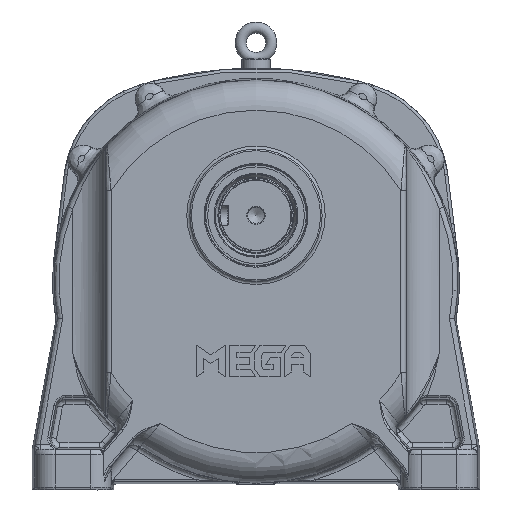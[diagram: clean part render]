
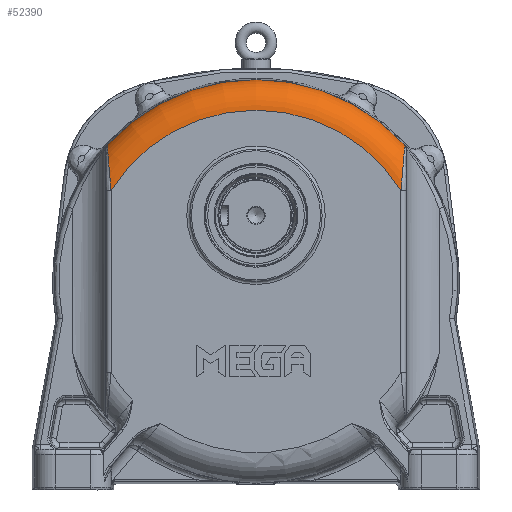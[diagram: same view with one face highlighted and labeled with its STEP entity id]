
A CAD part, front view. The second image highlights one B-rep face of the part: STEP entity #52390.
In plain terms, the highlighted toroidal (fillet/blend) face has major radius 168.286 mm and minor radius 30 mm.
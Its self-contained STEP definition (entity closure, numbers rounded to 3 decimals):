
#969=TOROIDAL_SURFACE('',#56864,168.286,30.);
#1635=B_SPLINE_CURVE_WITH_KNOTS('',3,(#92629,#92630,#92631,#92632,#92633,
#92634,#92635,#92636),.UNSPECIFIED.,.F.,.F.,(4,1,1,1,1,4),(-4.797,
-3.426,-2.056,-1.028,-0.685,
0.),.UNSPECIFIED.);
#1636=B_SPLINE_CURVE_WITH_KNOTS('',3,(#92640,#92641,#92642,#92643,#92644,
#92645,#92646,#92647),.UNSPECIFIED.,.F.,.F.,(4,1,1,1,1,4),(-4.797,
-4.112,-3.427,-2.056,-0.685,
0.),.UNSPECIFIED.);
#1637=B_SPLINE_CURVE_WITH_KNOTS('',3,(#92648,#92649,#92650,#92651),
 .UNSPECIFIED.,.F.,.F.,(4,4),(-0.483,0.),.UNSPECIFIED.);
#1638=B_SPLINE_CURVE_WITH_KNOTS('',3,(#92652,#92653,#92654,#92655),
 .UNSPECIFIED.,.F.,.F.,(4,4),(0.,0.483),.UNSPECIFIED.);
#5142=FACE_OUTER_BOUND('',#8385,.T.);
#8385=EDGE_LOOP('',(#38999,#39000,#39001,#39002,#39003,#39004));
#17792=CIRCLE('',#56854,198.284);
#17802=CIRCLE('',#56865,168.286);
#22128=VERTEX_POINT('',#92548);
#22130=VERTEX_POINT('',#92559);
#22142=VERTEX_POINT('',#92627);
#22143=VERTEX_POINT('',#92628);
#22144=VERTEX_POINT('',#92637);
#22145=VERTEX_POINT('',#92639);
#28100=EDGE_CURVE('',#22130,#22128,#17792,.T.);
#28117=EDGE_CURVE('',#22142,#22143,#1635,.T.);
#28118=EDGE_CURVE('',#22142,#22144,#17802,.T.);
#28119=EDGE_CURVE('',#22145,#22144,#1636,.T.);
#28120=EDGE_CURVE('',#22130,#22145,#1637,.T.);
#28121=EDGE_CURVE('',#22143,#22128,#1638,.T.);
#38999=ORIENTED_EDGE('',*,*,#28117,.F.);
#39000=ORIENTED_EDGE('',*,*,#28118,.T.);
#39001=ORIENTED_EDGE('',*,*,#28119,.F.);
#39002=ORIENTED_EDGE('',*,*,#28120,.F.);
#39003=ORIENTED_EDGE('',*,*,#28100,.T.);
#39004=ORIENTED_EDGE('',*,*,#28121,.F.);
#52390=ADVANCED_FACE('',(#5142),#969,.T.);
#56854=AXIS2_PLACEMENT_3D('',#92560,#67332,#67333);
#56864=AXIS2_PLACEMENT_3D('',#92626,#67352,#67353);
#56865=AXIS2_PLACEMENT_3D('',#92638,#67354,#67355);
#67332=DIRECTION('center_axis',(0.,-1.,0.));
#67333=DIRECTION('ref_axis',(-1.,0.,0.));
#67352=DIRECTION('center_axis',(0.,1.,0.));
#67353=DIRECTION('ref_axis',(0.,0.,1.));
#67354=DIRECTION('center_axis',(0.,1.,0.));
#67355=DIRECTION('ref_axis',(-1.,0.,0.));
#92548=CARTESIAN_POINT('',(-159.189,10.455,131.873));
#92559=CARTESIAN_POINT('',(133.806,10.455,131.873));
#92560=CARTESIAN_POINT('Origin',(-12.691,10.455,-1.75));
#92626=CARTESIAN_POINT('Origin',(-12.691,10.742,-1.75));
#92627=CARTESIAN_POINT('',(-155.191,-19.258,87.77));
#92628=CARTESIAN_POINT('',(-158.812,4.742,131.388));
#92629=CARTESIAN_POINT('Ctrl Pts',(-155.191,-19.258,
87.77));
#92630=CARTESIAN_POINT('Ctrl Pts',(-155.603,-19.258,
92.597));
#92631=CARTESIAN_POINT('Ctrl Pts',(-156.436,-18.415,
102.342));
#92632=CARTESIAN_POINT('Ctrl Pts',(-157.535,-14.01,
115.486));
#92633=CARTESIAN_POINT('Ctrl Pts',(-158.217,-7.794,
123.899));
#92634=CARTESIAN_POINT('Ctrl Pts',(-158.614,-1.566,
128.866));
#92635=CARTESIAN_POINT('Ctrl Pts',(-158.755,2.119,130.656));
#92636=CARTESIAN_POINT('Ctrl Pts',(-158.812,4.742,131.388));
#92637=CARTESIAN_POINT('',(129.809,-19.258,87.77));
#92638=CARTESIAN_POINT('Origin',(-12.691,-19.258,-1.75));
#92639=CARTESIAN_POINT('',(133.43,4.742,131.388));
#92640=CARTESIAN_POINT('Ctrl Pts',(133.43,4.742,131.388));
#92641=CARTESIAN_POINT('Ctrl Pts',(133.373,2.119,130.656));
#92642=CARTESIAN_POINT('Ctrl Pts',(133.184,-2.797,128.269));
#92643=CARTESIAN_POINT('Ctrl Pts',(132.605,-10.577,121.035));
#92644=CARTESIAN_POINT('Ctrl Pts',(131.666,-16.542,109.602));
#92645=CARTESIAN_POINT('Ctrl Pts',(130.635,-18.936,97.452));
#92646=CARTESIAN_POINT('Ctrl Pts',(130.015,-19.258,90.184));
#92647=CARTESIAN_POINT('Ctrl Pts',(129.809,-19.258,87.77));
#92648=CARTESIAN_POINT('Ctrl Pts',(133.806,10.455,131.873));
#92649=CARTESIAN_POINT('Ctrl Pts',(133.596,8.555,132.076));
#92650=CARTESIAN_POINT('Ctrl Pts',(133.471,6.59,131.904));
#92651=CARTESIAN_POINT('Ctrl Pts',(133.43,4.742,131.388));
#92652=CARTESIAN_POINT('Ctrl Pts',(-158.812,4.742,131.388));
#92653=CARTESIAN_POINT('Ctrl Pts',(-158.853,6.59,131.904));
#92654=CARTESIAN_POINT('Ctrl Pts',(-158.979,8.555,132.076));
#92655=CARTESIAN_POINT('Ctrl Pts',(-159.189,10.455,131.873));
